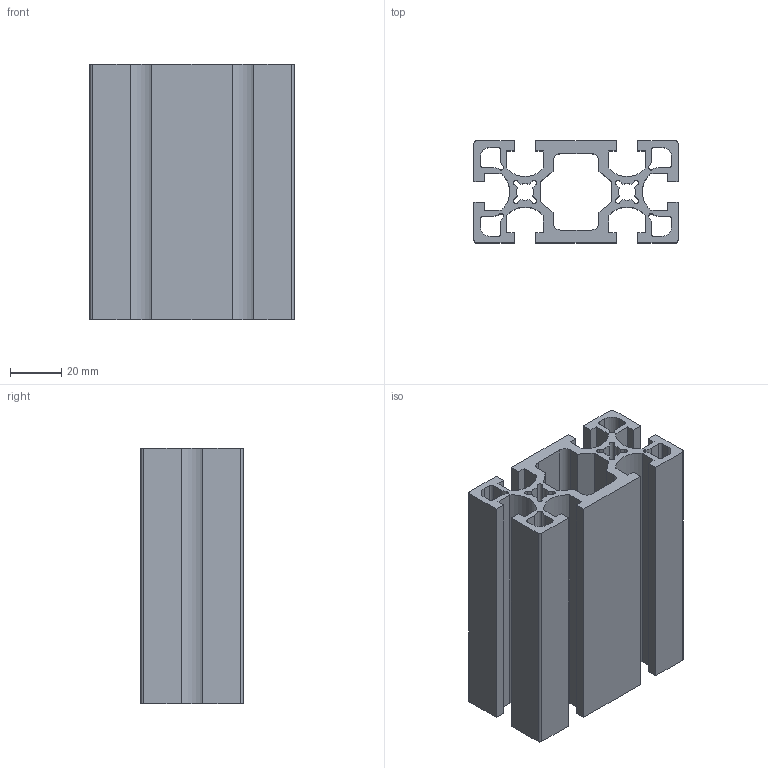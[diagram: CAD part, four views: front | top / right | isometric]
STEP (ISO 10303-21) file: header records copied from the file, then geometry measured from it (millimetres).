
FILE_DESCRIPTION (( 'STEP AP203' ), '1' );
FILE_NAME ('WS4080-8.STEP', '2024-02-19T05:17:43', ( '' ), ( '' ), 'SwSTEP 2.0', 'SolidWorks 2022', '' );
FILE_SCHEMA (( 'CONFIG_CONTROL_DESIGN' ));
Length unit declared in the file: millimetre
Products named in the file (1): WS4080-8
Bounding box: 80 x 40 x 100 mm (x, y, z)
Volume: 120167.8 mm3; surface area: 78039.4 mm2
Topology: 1 solids, 1 shells, 167 faces, 495 edges, 330 vertices
Faces by surface type: plane 96, cylinder 71
Entity records: 5716 total; most frequent: CARTESIAN_POINT 993, ORIENTED_EDGE 990, DIRECTION 973, EDGE_CURVE 495, LINE 353, VECTOR 353, VERTEX_POINT 330, AXIS2_PLACEMENT_3D 310
